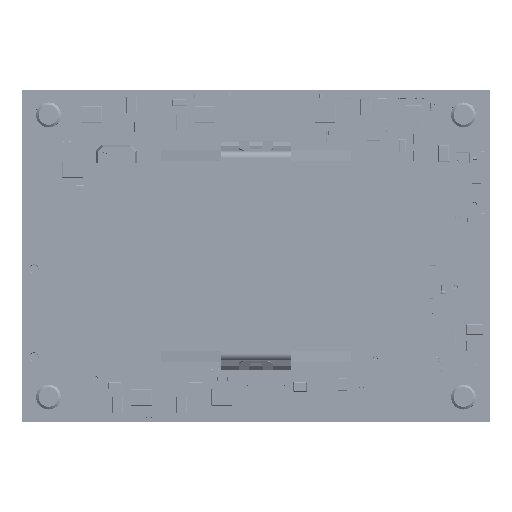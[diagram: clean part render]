
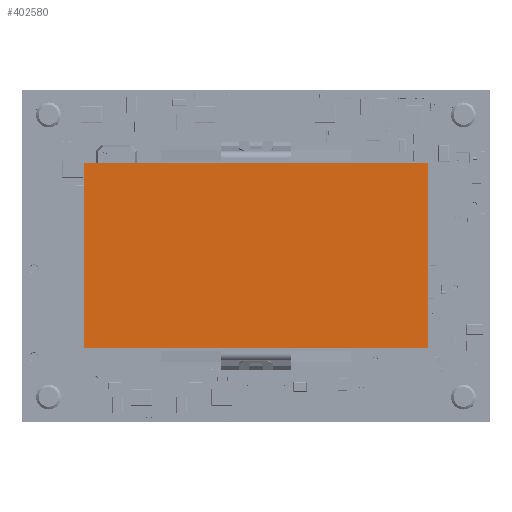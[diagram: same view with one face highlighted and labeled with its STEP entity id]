
A CAD part, top view. The second image highlights one B-rep face of the part: STEP entity #402580.
In plain terms, the highlighted planar face has unit normal (0, 0, 1) as drawn and (0, 1, 0) by its records, which use the part's own axes.
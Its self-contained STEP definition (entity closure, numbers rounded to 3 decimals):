
#400887 = VERTEX_POINT('',#400888);
#400888 = CARTESIAN_POINT('',(20.75,20.5,11.125));
#400894 = EDGE_CURVE('',#400887,#400895,#400897,.T.);
#400895 = VERTEX_POINT('',#400896);
#400896 = CARTESIAN_POINT('',(-20.75,20.5,11.125));
#400897 = LINE('',#400898,#400899);
#400898 = CARTESIAN_POINT('',(20.75,20.5,11.125));
#400899 = VECTOR('',#400900,1.);
#400900 = DIRECTION('',(-1.,0.,0.));
#402556 = VERTEX_POINT('',#402557);
#402557 = CARTESIAN_POINT('',(20.75,20.5,-11.125));
#402563 = EDGE_CURVE('',#400887,#402556,#402564,.T.);
#402564 = LINE('',#402565,#402566);
#402565 = CARTESIAN_POINT('',(20.75,20.5,11.125));
#402566 = VECTOR('',#402567,1.);
#402567 = DIRECTION('',(-0.,-0.,-1.));
#402580 = ADVANCED_FACE('',(#402581),#402599,.F.);
#402581 = FACE_BOUND('',#402582,.T.);
#402582 = EDGE_LOOP('',(#402583,#402591,#402597,#402598));
#402583 = ORIENTED_EDGE('',*,*,#402584,.T.);
#402584 = EDGE_CURVE('',#402556,#402585,#402587,.T.);
#402585 = VERTEX_POINT('',#402586);
#402586 = CARTESIAN_POINT('',(-20.75,20.5,-11.125));
#402587 = LINE('',#402588,#402589);
#402588 = CARTESIAN_POINT('',(20.75,20.5,-11.125));
#402589 = VECTOR('',#402590,1.);
#402590 = DIRECTION('',(-1.,0.,0.));
#402591 = ORIENTED_EDGE('',*,*,#402592,.F.);
#402592 = EDGE_CURVE('',#400895,#402585,#402593,.T.);
#402593 = LINE('',#402594,#402595);
#402594 = CARTESIAN_POINT('',(-20.75,20.5,11.125));
#402595 = VECTOR('',#402596,1.);
#402596 = DIRECTION('',(-0.,-0.,-1.));
#402597 = ORIENTED_EDGE('',*,*,#400894,.F.);
#402598 = ORIENTED_EDGE('',*,*,#402563,.T.);
#402599 = PLANE('',#402600);
#402600 = AXIS2_PLACEMENT_3D('',#402601,#402602,#402603);
#402601 = CARTESIAN_POINT('',(20.75,20.5,11.125));
#402602 = DIRECTION('',(0.,-1.,0.));
#402603 = DIRECTION('',(0.,-0.,-1.));
